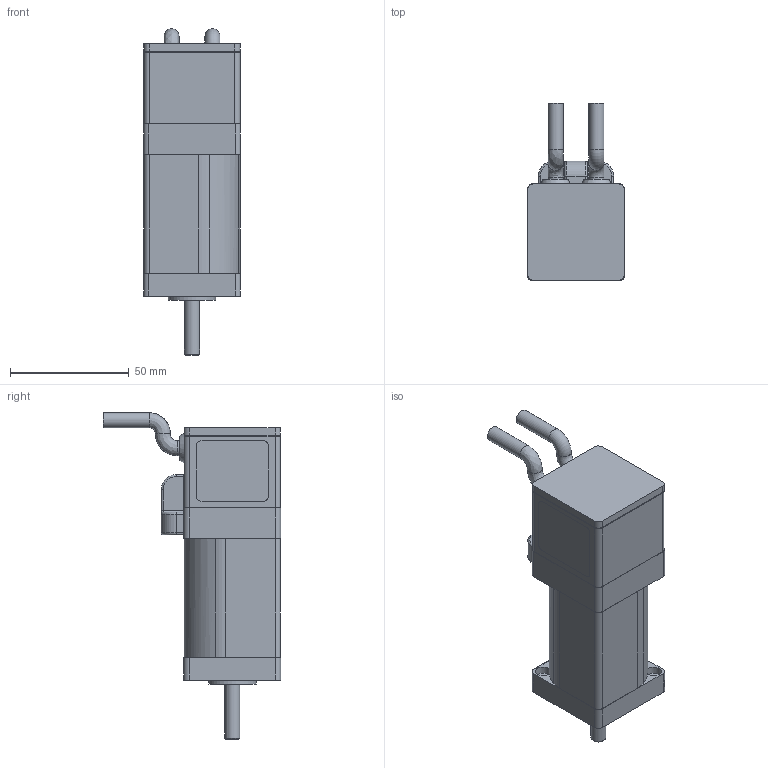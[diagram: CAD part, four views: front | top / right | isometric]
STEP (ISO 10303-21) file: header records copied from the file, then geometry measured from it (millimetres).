
FILE_DESCRIPTION((''),'2;1');
FILE_NAME('C:\CAD_work\Dummy_Modeling_Project_02-12-05\3D MODELS\BE164_CBL.stp','2005-12-20T15:06:43',('jevans'),(''),'Autodesk Inventor 10','Autodesk Inventor 10','');
FILE_SCHEMA(('AUTOMOTIVE_DESIGN { 1 0 10303 214 1 1 1 1 }'));
Length unit declared in the file: inch
Products named in the file (1): BE16_CBL
Bounding box: 40.89 x 74.9 x 137.77 mm (x, y, z)
Volume: 175681.2 mm3; surface area: 24797.2 mm2
Topology: 1 solids, 1 shells, 168 faces, 402 edges, 247 vertices
Faces by surface type: cylinder 72, plane 65, bspline 18, torus 12, cone 1
Full cylindrical faces by diameter (mm): 1.7 x2, 6.35 x3, 8.992 x1, 11.176 x1, 15.697 x1, 17 x1, 17.018 x2, 18.009 x1, 20.015 x1
Entity records: 5054 total; most frequent: CARTESIAN_POINT 1210, DIRECTION 847, ORIENTED_EDGE 728, EDGE_CURVE 364, AXIS2_PLACEMENT_3D 332, VERTEX_POINT 239, EDGE_LOOP 217, VECTOR 183
